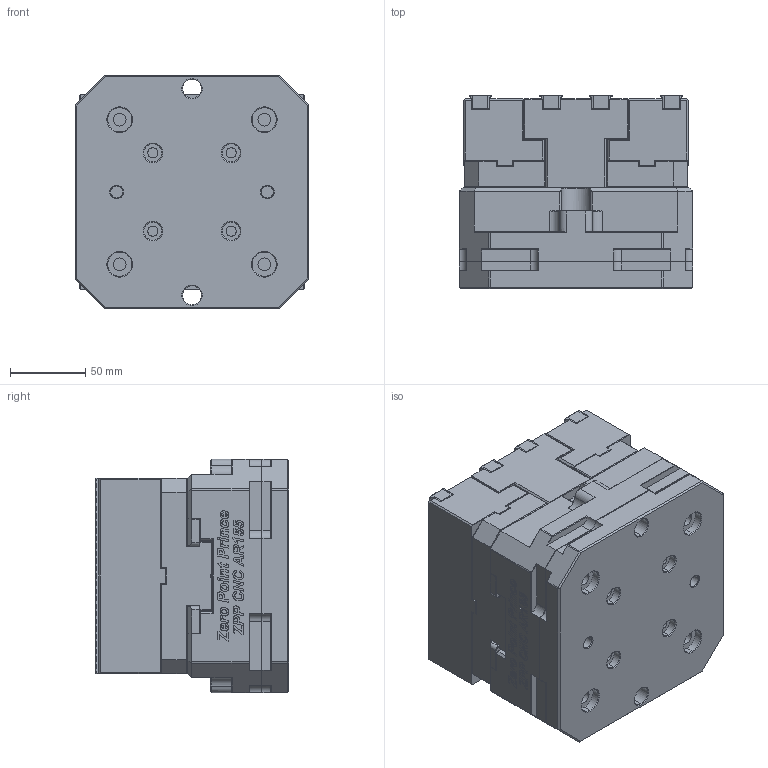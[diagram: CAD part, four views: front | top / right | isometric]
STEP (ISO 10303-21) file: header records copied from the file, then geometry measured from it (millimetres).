
FILE_DESCRIPTION((''),'2;1');
FILE_NAME('AR155_2N_ASM','2024-11-06T10:53:17',('XF'),(''),'CREO PARAMETRIC BY PTC INC, 2023073','CREO PARAMETRIC BY PTC INC, 2023073','');
FILE_SCHEMA(('CONFIG_CONTROL_DESIGN'));
Products named in the file (7): AR155_1_1_1; AR155-16_21_1; AR155-12_25_1; AR155-14_24_1; AR155-11_12_1_1_1_1; AR55-I_ASM_1_1_ASM; AR155_2N_ASM
Assembly tree (11 placements, depth 3):
  AR155_2N_ASM
    AR55-I_ASM_1_1_ASM
      AR155_1_1_1
      AR155-16_21_1
      AR155-12_25_1  x2
      AR155-14_24_1  x2
      AR155-11_12_1_1_1_1  x4
Bounding box: 155 x 128.5 x 155 mm (x, y, z)
Volume: 2464189 mm3; surface area: 313125.5 mm2
Topology: 10 solids, 48 shells, 3308 faces, 9415 edges, 6226 vertices
Faces by surface type: plane 1637, cylinder 679, extrusion 548, cone 438, bspline 4, sphere 2
Entity records: 76342 total; most frequent: CARTESIAN_POINT 20093, ORIENTED_EDGE 12370, DIRECTION 9956, EDGE_CURVE 6231, VECTOR 4240, VERTEX_POINT 4107, LINE 3692, AXIS2_PLACEMENT_3D 2858
